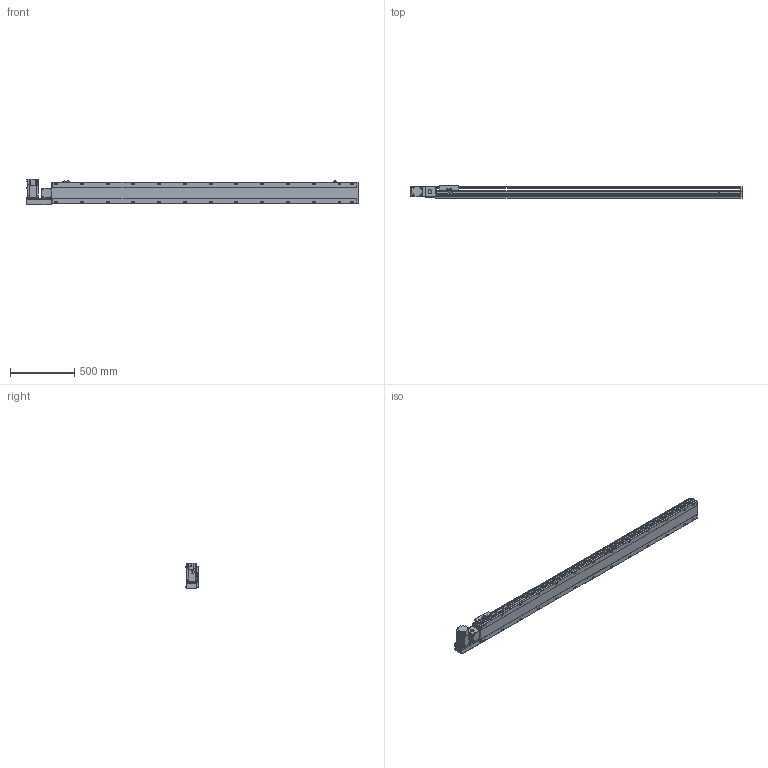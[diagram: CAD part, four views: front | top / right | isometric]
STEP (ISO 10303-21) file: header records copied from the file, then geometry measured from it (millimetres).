
FILE_DESCRIPTION( ( 'STEP AP214' ), '1' );
FILE_NAME( 'x:/temp/worker_4/temp/exporttempdir_2248_219_O9kX8/format_0/PBS170-P40-S2100-L-T75-C1-N(0).stp', '2022-06-07T06:58:14', ( 'License CC BY-ND 4.0' ), ( 'CADENAS' ), ' ', 'PARTsolutions', ' ' );
FILE_SCHEMA( ( 'AUTOMOTIVE_DESIGN { 1 0 10303 214 1 1 1 1 }' ) );
Length unit declared in the file: millimetre
Products named in the file (7): PBS170-P40-S2100-L-T75-C1-N(0); _PBS170-S2100()_body; _PBS170T-L_motors; _T75-p1; _PBS170_sliser; _PBS170_plant; _PBS170_sensor
Assembly tree (8 placements, depth 2):
  PBS170-P40-S2100-L-T75-C1-N(0)
    _PBS170-S2100()_body
    _PBS170T-L_motors
    _T75-p1
    _PBS170_sliser
    _PBS170_plant
    _PBS170_sensor  x3
Bounding box: 2578 x 97 x 197.3 mm (x, y, z)
Volume: 18827173.3 mm3; surface area: 2386226.9 mm2
Topology: 8 solids, 8 shells, 1162 faces, 3075 edges, 2004 vertices
Faces by surface type: plane 717, cylinder 379, cone 56, sphere 8, torus 2
Full cylindrical faces by diameter (mm): 3.242 x4, 4 x2, 4.4 x4, 4.5 x6, 4.917 x4, 6 x9, 6.647 x34, 7 x2, 7.5 x4, 8 x8, 8.5 x26, 10 x4, 10.5 x26, 11 x2, 30 x2, 40 x1, 70 x1
Entity records: 42950 total; most frequent: CARTESIAN_POINT 7061, DIRECTION 5650, ORIENTED_EDGE 5328, EDGE_CURVE 2664, AXIS2_PLACEMENT_3D 1987, VERTEX_POINT 1850, LINE 1676, VECTOR 1676
